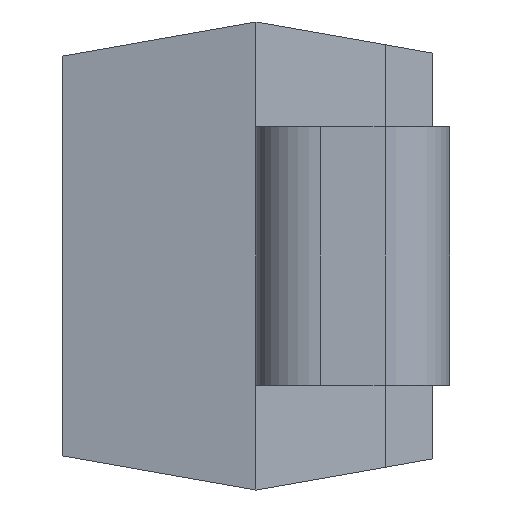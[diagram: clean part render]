
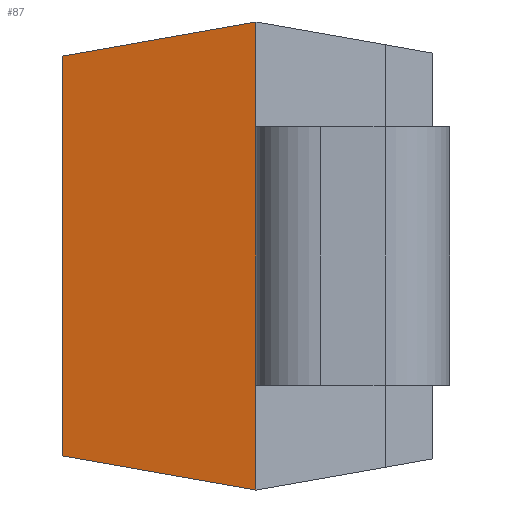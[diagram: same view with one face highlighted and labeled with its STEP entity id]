
A CAD part, left-side view. The second image highlights one B-rep face of the part: STEP entity #87.
In plain terms, the highlighted planar face has unit normal (-0.985, 0.174, 0).
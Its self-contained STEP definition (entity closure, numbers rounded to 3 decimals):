
#75 = ORIENTED_EDGE ( 'NONE', *, *, #113, .F. ) ;
#76 = ORIENTED_EDGE ( 'NONE', *, *, #132, .F. ) ;
#87 = ADVANCED_FACE ( 'NONE', ( #643 ), #642, .F. ) ;
#88 = EDGE_LOOP ( 'NONE', ( #89, #95, #97, #76, #75, #112 ) ) ;
#89 = ORIENTED_EDGE ( 'NONE', *, *, #90, .F. ) ;
#90 = EDGE_CURVE ( 'NONE', #91, #201, #640, .T. ) ;
#91 = VERTEX_POINT ( 'NONE', #633 ) ;
#92 = VERTEX_POINT ( 'NONE', #632 ) ;
#95 = ORIENTED_EDGE ( 'NONE', *, *, #96, .T. ) ;
#96 = EDGE_CURVE ( 'NONE', #91, #92, #626, .T. ) ;
#97 = ORIENTED_EDGE ( 'NONE', *, *, #98, .F. ) ;
#98 = EDGE_CURVE ( 'NONE', #195, #92, #622, .T. ) ;
#112 = ORIENTED_EDGE ( 'NONE', *, *, #120, .F. ) ;
#113 = EDGE_CURVE ( 'NONE', #121, #130, #656, .T. ) ;
#120 = EDGE_CURVE ( 'NONE', #201, #121, #702, .T. ) ;
#121 = VERTEX_POINT ( 'NONE', #698 ) ;
#130 = VERTEX_POINT ( 'NONE', #683 ) ;
#132 = EDGE_CURVE ( 'NONE', #130, #195, #746, .T. ) ;
#195 = VERTEX_POINT ( 'NONE', #813 ) ;
#201 = VERTEX_POINT ( 'NONE', #867 ) ;
#620 = DIRECTION ( 'NONE',  ( 0.171, 0.97, 0.171 ) ) ;
#621 = CARTESIAN_POINT ( 'NONE',  ( -1.96, 2.846, -1.16 ) ) ;
#622 = LINE ( 'NONE', #621, #682 ) ;
#623 = DIRECTION ( 'NONE',  ( 0., 0., -1. ) ) ;
#624 = VECTOR ( 'NONE', #623, 1000. ) ;
#625 = CARTESIAN_POINT ( 'NONE',  ( -2.038, 2.4, 1.45 ) ) ;
#626 = LINE ( 'NONE', #625, #624 ) ;
#632 = CARTESIAN_POINT ( 'NONE',  ( -2.038, 2.4, -1.238 ) ) ;
#633 = CARTESIAN_POINT ( 'NONE',  ( -2.038, 2.4, 1.238 ) ) ;
#634 = DIRECTION ( 'NONE',  ( -0.171, -0.97, 0.171 ) ) ;
#635 = VECTOR ( 'NONE', #634, 1000. ) ;
#636 = CARTESIAN_POINT ( 'NONE',  ( -2.045, 2.365, 1.245 ) ) ;
#637 = DIRECTION ( 'NONE',  ( 0.174, 0.985, 0. ) ) ;
#638 = DIRECTION ( 'NONE',  ( 0.985, -0.174, 0. ) ) ;
#639 = CARTESIAN_POINT ( 'NONE',  ( -2.038, 2.4, 1.45 ) ) ;
#640 = LINE ( 'NONE', #636, #635 ) ;
#641 = AXIS2_PLACEMENT_3D ( 'NONE', #639, #638, #637 ) ;
#642 = PLANE ( 'NONE',  #641 ) ;
#643 = FACE_OUTER_BOUND ( 'NONE', #88, .T. ) ;
#653 = DIRECTION ( 'NONE',  ( 0., 0., -1. ) ) ;
#654 = VECTOR ( 'NONE', #653, 1000. ) ;
#655 = CARTESIAN_POINT ( 'NONE',  ( -2.25, 1.2, 1.45 ) ) ;
#656 = LINE ( 'NONE', #655, #654 ) ;
#682 = VECTOR ( 'NONE', #620, 1000. ) ;
#683 = CARTESIAN_POINT ( 'NONE',  ( -2.25, 1.2, -0.8 ) ) ;
#698 = CARTESIAN_POINT ( 'NONE',  ( -2.25, 1.2, 0.8 ) ) ;
#699 = DIRECTION ( 'NONE',  ( 0., 0., -1. ) ) ;
#700 = VECTOR ( 'NONE', #699, 1000. ) ;
#701 = CARTESIAN_POINT ( 'NONE',  ( -2.25, 1.2, 1.45 ) ) ;
#702 = LINE ( 'NONE', #701, #700 ) ;
#743 = DIRECTION ( 'NONE',  ( 0., 0., -1. ) ) ;
#744 = VECTOR ( 'NONE', #743, 1000. ) ;
#745 = CARTESIAN_POINT ( 'NONE',  ( -2.25, 1.2, 1.45 ) ) ;
#746 = LINE ( 'NONE', #745, #744 ) ;
#813 = CARTESIAN_POINT ( 'NONE',  ( -2.25, 1.2, -1.45 ) ) ;
#867 = CARTESIAN_POINT ( 'NONE',  ( -2.25, 1.2, 1.45 ) ) ;
